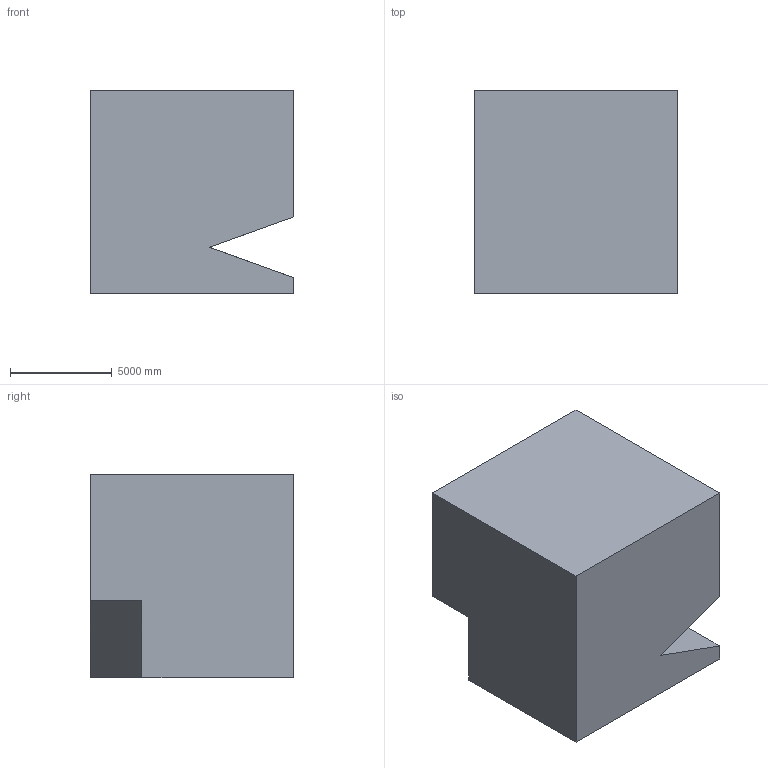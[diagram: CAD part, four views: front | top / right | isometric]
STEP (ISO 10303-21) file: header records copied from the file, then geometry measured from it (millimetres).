
FILE_DESCRIPTION (( 'STEP AP203' ), '1' );
FILE_NAME ('1262.STEP', '2022-08-18T13:27:07', ( 'user' ), ( '' ), 'SwSTEP 2.0', 'SolidWorks 2021', '' );
FILE_SCHEMA (( 'CONFIG_CONTROL_DESIGN' ));
Length unit declared in the file: centimetre
Products named in the file (1): 1262
Bounding box: 10000 x 10000 x 10000 mm (x, y, z)
Volume: 883935702240.2 mm3; surface area: 643488217.2 mm2
Topology: 1 solids, 1 shells, 17 faces, 45 edges, 30 vertices
Faces by surface type: plane 17
Entity records: 596 total; most frequent: CARTESIAN_POINT 93, ORIENTED_EDGE 90, DIRECTION 81, LINE 45, EDGE_CURVE 45, VECTOR 45, VERTEX_POINT 30, AXIS2_PLACEMENT_3D 18
